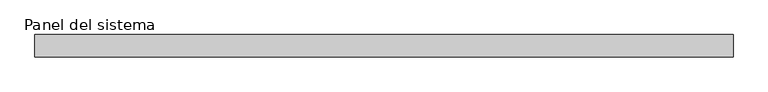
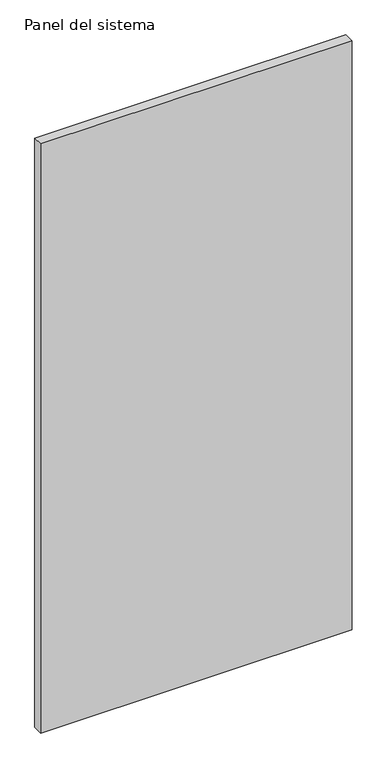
"""IFC4 building model written with IfcOpenShell, lengths in millimetres: plate geometry, Panel del sistema : Hiansa Panel - Fachada Panel PERFILADO Vert - 35mm."""

from ifc_helpers import new_model, si_unit, origin, origin_with_axes, place, context, project, spatial, polyline, outline, extrude, source, transform, mapped, element, save


def panel_del_sistema_2814d556(model_context):
    return source(origin(), model_context, "Body", "SweptSolid", [
        extrude(outline(polyline([(550.0000002, -35.0), (-550.0000002, -35.0), (-550.0000002, 0.0), (550.0000002, 0.0), (550.0000002, -35.0)])), origin_with_axes(), (0.0, 0.0, 1.0), 2200.0),
    ])


if __name__ == "__main__":
    model = new_model("IFC4")
    model_context = context("Model", 3, world=origin())
    ifc_project = project(units=[si_unit("LENGTHUNIT", "METRE", prefix="MILLI")], contexts=[model_context])
    site = spatial("IfcSite", under=ifc_project)
    building = spatial("IfcBuilding", under=site)
    placement = place(None, origin())
    panel_del_sistema_shape = panel_del_sistema_2814d556(model_context)
    element("IfcPlate", 1, ObjectType="Panel del sistema : Hiansa Panel - Fachada Panel PERFILADO Vert - 35mm", at=placement, inside=building, context=model_context, shape_type="MappedRepresentation", body=[
        mapped(panel_del_sistema_shape, transform((0.0, 0.0, 0.0), x_axis=(1.0, 0.0, 0.0), y_axis=(0.0, 1.0, 0.0), z_axis=(0.0, 0.0, 1.0))),
    ])
    save(model, "model.ifc")
